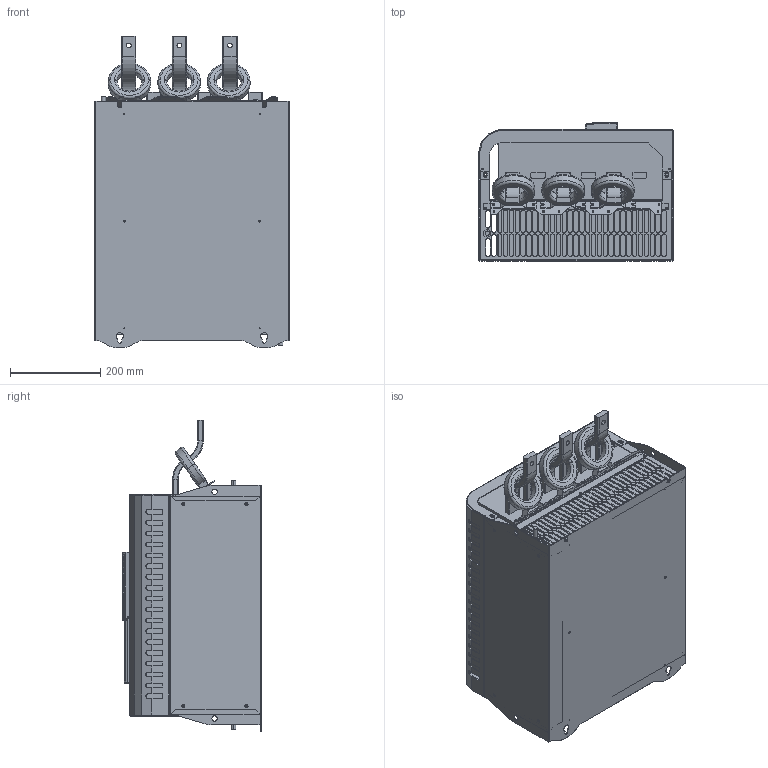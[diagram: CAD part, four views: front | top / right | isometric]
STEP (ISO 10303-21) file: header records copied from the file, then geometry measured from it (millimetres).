
FILE_DESCRIPTION (( 'STEP AP214' ), '1' );
FILE_NAME ('722-13732-00B.STEP', '2012-01-19T22:40:46', ( 'Mech Eng Contractor' ), ( 'AuCom Electronics Ltd' ), 'SwSTEP 2.0', 'SolidWorks 2010', '' );
FILE_SCHEMA (( 'AUTOMOTIVE_DESIGN' ));
Length unit declared in the file: millimetre
Products named in the file (1): 722-13732-00B
Bounding box: 430.2 x 306.1 x 689 mm (x, y, z)
Volume: 53077750.8 mm3; surface area: 2031119 mm2
Topology: 2 solids, 7 shells, 4687 faces, 12283 edges, 7841 vertices
Faces by surface type: plane 2541, cylinder 1134, bspline 740, torus 118, cone 104, sphere 50
Entity records: 232918 total; most frequent: CARTESIAN_POINT 69487, ORIENTED_EDGE 24480, DIRECTION 20942, EDGE_CURVE 12240, LINE 7994, VECTOR 7994, VERTEX_POINT 7841, AXIS2_PLACEMENT_3D 6474
